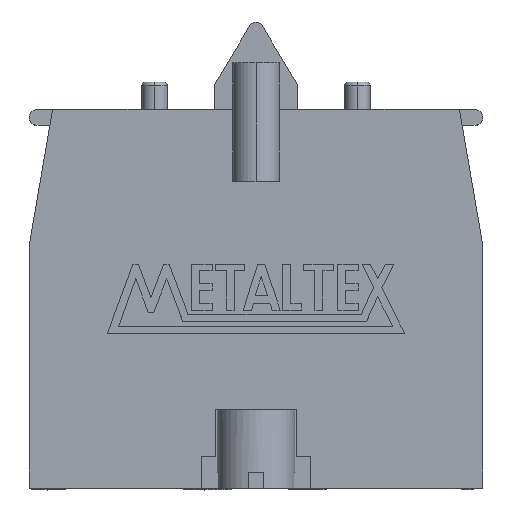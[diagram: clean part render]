
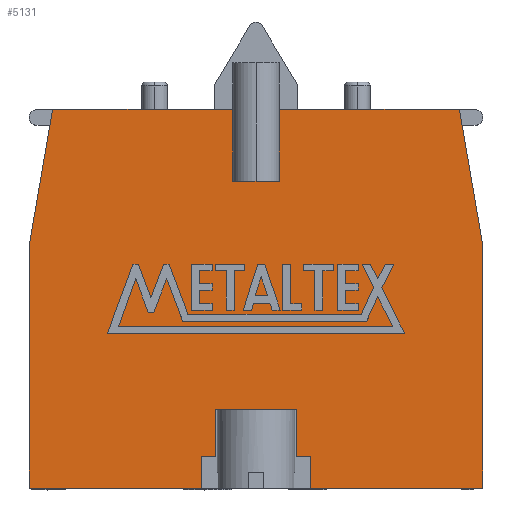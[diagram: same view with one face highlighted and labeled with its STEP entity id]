
A CAD part, top view. The second image highlights one B-rep face of the part: STEP entity #5131.
In plain terms, the highlighted planar face has unit normal (0, 0, 1).
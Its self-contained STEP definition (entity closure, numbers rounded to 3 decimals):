
#182 = CARTESIAN_POINT ( 'NONE',  ( -14.5, 0., 7.45 ) ) ;
#184 = LINE ( 'NONE', #182, #8973 ) ;
#185 = DIRECTION ( 'NONE',  ( 1., 0., 0. ) ) ;
#227 = CARTESIAN_POINT ( 'NONE',  ( -14.5, 15.5, 7.45 ) ) ;
#228 = DIRECTION ( 'NONE',  ( 0., -1., 0. ) ) ;
#230 = LINE ( 'NONE', #227, #9014 ) ;
#243 = DIRECTION ( 'NONE',  ( -1., 0., 0. ) ) ;
#244 = CARTESIAN_POINT ( 'NONE',  ( 0., 19.6, 7.45 ) ) ;
#245 = LINE ( 'NONE', #244, #9019 ) ;
#253 = LINE ( 'NONE', #325, #8981 ) ;
#256 = LINE ( 'NONE', #334, #8989 ) ;
#257 = DIRECTION ( 'NONE',  ( 0., 1., 0. ) ) ;
#258 = LINE ( 'NONE', #348, #8993 ) ;
#259 = LINE ( 'NONE', #351, #8997 ) ;
#260 = LINE ( 'NONE', #359, #8998 ) ;
#262 = CARTESIAN_POINT ( 'NONE',  ( -2.6, 0., 7.45 ) ) ;
#263 = DIRECTION ( 'NONE',  ( 0., 1., 0. ) ) ;
#325 = CARTESIAN_POINT ( 'NONE',  ( -13., 24.2, 7.45 ) ) ;
#329 = LINE ( 'NONE', #331, #8986 ) ;
#330 = DIRECTION ( 'NONE',  ( -0.17, -0.985, 0. ) ) ;
#331 = CARTESIAN_POINT ( 'NONE',  ( 14.5, 0., 7.45 ) ) ;
#334 = CARTESIAN_POINT ( 'NONE',  ( 0., 2., 7.45 ) ) ;
#335 = DIRECTION ( 'NONE',  ( 0., 1., 0. ) ) ;
#337 = LINE ( 'NONE', #345, #8992 ) ;
#338 = LINE ( 'NONE', #341, #8991 ) ;
#339 = DIRECTION ( 'NONE',  ( 1., 0., 0. ) ) ;
#340 = CARTESIAN_POINT ( 'NONE',  ( -1.5, 19.6, 7.45 ) ) ;
#341 = CARTESIAN_POINT ( 'NONE',  ( -3.5, 0., 7.45 ) ) ;
#342 = LINE ( 'NONE', #340, #8990 ) ;
#343 = DIRECTION ( 'NONE',  ( 0., 1., 0. ) ) ;
#345 = CARTESIAN_POINT ( 'NONE',  ( 2.6, 0., 7.45 ) ) ;
#346 = DIRECTION ( 'NONE',  ( 0., 1., 0. ) ) ;
#347 = DIRECTION ( 'NONE',  ( 0., 1., 0. ) ) ;
#348 = CARTESIAN_POINT ( 'NONE',  ( 3.5, 0., 7.45 ) ) ;
#349 = LINE ( 'NONE', #262, #8996 ) ;
#350 = DIRECTION ( 'NONE',  ( 1., 0., 0. ) ) ;
#351 = CARTESIAN_POINT ( 'NONE',  ( 0., 2., 7.45 ) ) ;
#356 = DIRECTION ( 'NONE',  ( 0., 1., 0. ) ) ;
#359 = CARTESIAN_POINT ( 'NONE',  ( 1.5, 19.6, 7.45 ) ) ;
#857 = DIRECTION ( 'NONE',  ( -1., 0., 0. ) ) ;
#858 = CARTESIAN_POINT ( 'NONE',  ( 13., 24.2, 7.45 ) ) ;
#859 = LINE ( 'NONE', #858, #8815 ) ;
#910 = DIRECTION ( 'NONE',  ( -0.17, 0.985, 0. ) ) ;
#912 = CARTESIAN_POINT ( 'NONE',  ( 14.5, 15.5, 7.45 ) ) ;
#913 = LINE ( 'NONE', #912, #8833 ) ;
#922 = CARTESIAN_POINT ( 'NONE',  ( -14.5, 0., 7.45 ) ) ;
#924 = DIRECTION ( 'NONE',  ( 1., 0., 0. ) ) ;
#926 = LINE ( 'NONE', #922, #8943 ) ;
#1033 = CARTESIAN_POINT ( 'NONE',  ( 0., 5., 7.45 ) ) ;
#1034 = LINE ( 'NONE', #1033, #8791 ) ;
#1038 = DIRECTION ( 'NONE',  ( -1., 0., 0. ) ) ;
#1273 = DIRECTION ( 'NONE',  ( -1., 0., 0. ) ) ;
#1275 = LINE ( 'NONE', #1278, #8873 ) ;
#1278 = CARTESIAN_POINT ( 'NONE',  ( 13., 24.2, 7.45 ) ) ;
#1388 = FACE_OUTER_BOUND ( 'NONE', #3338, .T. ) ;
#1711 = AXIS2_PLACEMENT_3D ( 'NONE', #3489, #3497, #3498 ) ;
#2114 = VERTEX_POINT ( 'NONE', #3194 ) ;
#2156 = VERTEX_POINT ( 'NONE', #3417 ) ;
#2162 = VERTEX_POINT ( 'NONE', #3380 ) ;
#2181 = VERTEX_POINT ( 'NONE', #3181 ) ;
#2204 = VERTEX_POINT ( 'NONE', #2968 ) ;
#2225 = VERTEX_POINT ( 'NONE', #2993 ) ;
#2308 = VERTEX_POINT ( 'NONE', #2884 ) ;
#2322 = VERTEX_POINT ( 'NONE', #2950 ) ;
#2328 = VERTEX_POINT ( 'NONE', #2703 ) ;
#2358 = VERTEX_POINT ( 'NONE', #2709 ) ;
#2368 = VERTEX_POINT ( 'NONE', #2990 ) ;
#2374 = VERTEX_POINT ( 'NONE', #2985 ) ;
#2474 = VERTEX_POINT ( 'NONE', #2742 ) ;
#2550 = VERTEX_POINT ( 'NONE', #2977 ) ;
#2599 = VERTEX_POINT ( 'NONE', #2988 ) ;
#2621 = VERTEX_POINT ( 'NONE', #2783 ) ;
#2646 = VERTEX_POINT ( 'NONE', #2981 ) ;
#2684 = VERTEX_POINT ( 'NONE', #2804 ) ;
#2703 = CARTESIAN_POINT ( 'NONE',  ( 14.5, 15.5, 7.45 ) ) ;
#2709 = CARTESIAN_POINT ( 'NONE',  ( 1.5, 19.6, 7.45 ) ) ;
#2742 = CARTESIAN_POINT ( 'NONE',  ( 3.5, 2., 7.45 ) ) ;
#2783 = CARTESIAN_POINT ( 'NONE',  ( 3.5, 0., 7.45 ) ) ;
#2804 = CARTESIAN_POINT ( 'NONE',  ( -3.5, 0., 7.45 ) ) ;
#2884 = CARTESIAN_POINT ( 'NONE',  ( -13., 24.2, 7.45 ) ) ;
#2950 = CARTESIAN_POINT ( 'NONE',  ( -14.5, 15.5, 7.45 ) ) ;
#2968 = CARTESIAN_POINT ( 'NONE',  ( 2.6, 2., 7.45 ) ) ;
#2977 = CARTESIAN_POINT ( 'NONE',  ( -14.5, 0., 7.45 ) ) ;
#2981 = CARTESIAN_POINT ( 'NONE',  ( 14.5, 0., 7.45 ) ) ;
#2985 = CARTESIAN_POINT ( 'NONE',  ( -2.6, 2., 7.45 ) ) ;
#2988 = CARTESIAN_POINT ( 'NONE',  ( -2.6, 5., 7.45 ) ) ;
#2990 = CARTESIAN_POINT ( 'NONE',  ( 13., 24.2, 7.45 ) ) ;
#2993 = CARTESIAN_POINT ( 'NONE',  ( -3.5, 2., 7.45 ) ) ;
#3181 = CARTESIAN_POINT ( 'NONE',  ( 2.6, 5., 7.45 ) ) ;
#3194 = CARTESIAN_POINT ( 'NONE',  ( -1.5, 19.6, 7.45 ) ) ;
#3338 = EDGE_LOOP ( 'NONE', ( #6328, #6324, #6330, #6323, #6327, #6326, #6322, #6325, #6321, #6319, #6318, #6320, #6317, #6315, #6314, #6312, #6316, #6309 ) ) ;
#3380 = CARTESIAN_POINT ( 'NONE',  ( 1.5, 24.2, 7.45 ) ) ;
#3417 = CARTESIAN_POINT ( 'NONE',  ( -1.5, 24.2, 7.45 ) ) ;
#3489 = CARTESIAN_POINT ( 'NONE',  ( 0., 0., 7.45 ) ) ;
#3494 = PLANE ( 'NONE',  #1711 ) ;
#3497 = DIRECTION ( 'NONE',  ( 0., 0., 1. ) ) ;
#3498 = DIRECTION ( 'NONE',  ( 1., 0., 0. ) ) ;
#5131 = ADVANCED_FACE ( 'NONE', ( #1388 ), #3494, .T. ) ;
#5831 = EDGE_CURVE ( 'NONE', #2156, #2308, #1275, .T. ) ;
#5879 = EDGE_CURVE ( 'NONE', #2328, #2368, #913, .T. ) ;
#5897 = EDGE_CURVE ( 'NONE', #2368, #2162, #859, .T. ) ;
#5927 = EDGE_CURVE ( 'NONE', #2181, #2599, #1034, .T. ) ;
#5942 = EDGE_CURVE ( 'NONE', #2621, #2646, #926, .T. ) ;
#5962 = EDGE_CURVE ( 'NONE', #2550, #2684, #184, .T. ) ;
#5982 = EDGE_CURVE ( 'NONE', #2308, #2322, #253, .T. ) ;
#5984 = EDGE_CURVE ( 'NONE', #2646, #2328, #329, .T. ) ;
#5986 = EDGE_CURVE ( 'NONE', #2225, #2374, #256, .T. ) ;
#5987 = EDGE_CURVE ( 'NONE', #2684, #2225, #338, .T. ) ;
#5988 = EDGE_CURVE ( 'NONE', #2114, #2156, #342, .T. ) ;
#5989 = EDGE_CURVE ( 'NONE', #2204, #2181, #337, .T. ) ;
#5990 = EDGE_CURVE ( 'NONE', #2621, #2474, #258, .T. ) ;
#5991 = EDGE_CURVE ( 'NONE', #2204, #2474, #259, .T. ) ;
#5992 = EDGE_CURVE ( 'NONE', #2374, #2599, #349, .T. ) ;
#5995 = EDGE_CURVE ( 'NONE', #2358, #2162, #260, .T. ) ;
#6009 = EDGE_CURVE ( 'NONE', #2358, #2114, #245, .T. ) ;
#6014 = EDGE_CURVE ( 'NONE', #2322, #2550, #230, .T. ) ;
#6309 = ORIENTED_EDGE ( 'NONE', *, *, #6009, .T. ) ;
#6312 = ORIENTED_EDGE ( 'NONE', *, *, #5897, .T. ) ;
#6314 = ORIENTED_EDGE ( 'NONE', *, *, #5879, .T. ) ;
#6315 = ORIENTED_EDGE ( 'NONE', *, *, #5984, .T. ) ;
#6316 = ORIENTED_EDGE ( 'NONE', *, *, #5995, .F. ) ;
#6317 = ORIENTED_EDGE ( 'NONE', *, *, #5942, .T. ) ;
#6318 = ORIENTED_EDGE ( 'NONE', *, *, #5991, .T. ) ;
#6319 = ORIENTED_EDGE ( 'NONE', *, *, #5989, .F. ) ;
#6320 = ORIENTED_EDGE ( 'NONE', *, *, #5990, .F. ) ;
#6321 = ORIENTED_EDGE ( 'NONE', *, *, #5927, .F. ) ;
#6322 = ORIENTED_EDGE ( 'NONE', *, *, #5986, .T. ) ;
#6323 = ORIENTED_EDGE ( 'NONE', *, *, #6014, .T. ) ;
#6324 = ORIENTED_EDGE ( 'NONE', *, *, #5831, .T. ) ;
#6325 = ORIENTED_EDGE ( 'NONE', *, *, #5992, .T. ) ;
#6326 = ORIENTED_EDGE ( 'NONE', *, *, #5987, .T. ) ;
#6327 = ORIENTED_EDGE ( 'NONE', *, *, #5962, .T. ) ;
#6328 = ORIENTED_EDGE ( 'NONE', *, *, #5988, .T. ) ;
#6330 = ORIENTED_EDGE ( 'NONE', *, *, #5982, .T. ) ;
#8791 = VECTOR ( 'NONE', #1038, 1000. ) ;
#8815 = VECTOR ( 'NONE', #857, 1000. ) ;
#8833 = VECTOR ( 'NONE', #910, 1000. ) ;
#8873 = VECTOR ( 'NONE', #1273, 1000. ) ;
#8943 = VECTOR ( 'NONE', #924, 1000. ) ;
#8973 = VECTOR ( 'NONE', #185, 1000. ) ;
#8981 = VECTOR ( 'NONE', #330, 1000. ) ;
#8986 = VECTOR ( 'NONE', #335, 1000. ) ;
#8989 = VECTOR ( 'NONE', #339, 1000. ) ;
#8990 = VECTOR ( 'NONE', #343, 1000. ) ;
#8991 = VECTOR ( 'NONE', #257, 1000. ) ;
#8992 = VECTOR ( 'NONE', #347, 1000. ) ;
#8993 = VECTOR ( 'NONE', #346, 1000. ) ;
#8996 = VECTOR ( 'NONE', #263, 1000. ) ;
#8997 = VECTOR ( 'NONE', #350, 1000. ) ;
#8998 = VECTOR ( 'NONE', #356, 1000. ) ;
#9014 = VECTOR ( 'NONE', #228, 1000. ) ;
#9019 = VECTOR ( 'NONE', #243, 1000. ) ;
